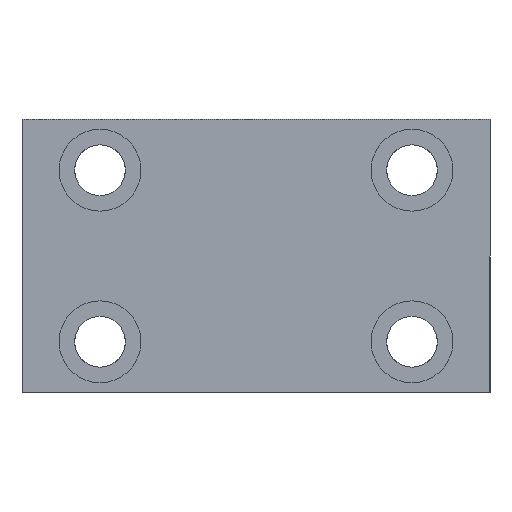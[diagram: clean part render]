
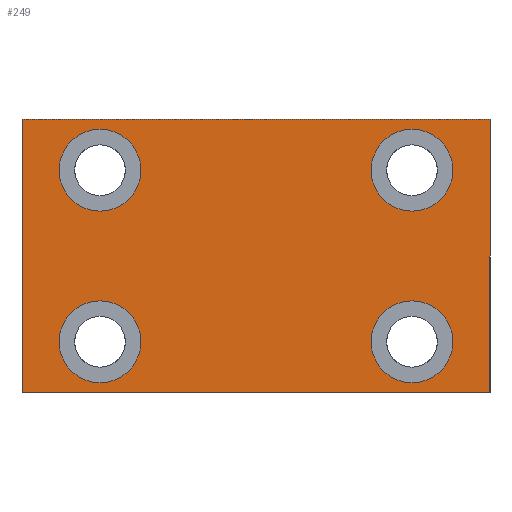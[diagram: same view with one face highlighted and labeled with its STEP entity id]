
A CAD part, front view. The second image highlights one B-rep face of the part: STEP entity #249.
In plain terms, the highlighted planar face has unit normal (0, -1, 0).
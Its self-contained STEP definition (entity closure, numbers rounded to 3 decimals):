
#4 = VERTEX_POINT ( 'NONE', #2192 ) ;
#71 = CARTESIAN_POINT ( 'NONE',  ( 0., 0., 0. ) ) ;
#80 = EDGE_CURVE ( 'NONE', #3009, #1464, #1374, .T. ) ;
#84 = PLANE ( 'NONE',  #2084 ) ;
#98 = DIRECTION ( 'NONE',  ( 0., 1., 0. ) ) ;
#104 = DIRECTION ( 'NONE',  ( 0., 0., 1. ) ) ;
#117 = AXIS2_PLACEMENT_3D ( 'NONE', #415, #180, #343 ) ;
#166 = ORIENTED_EDGE ( 'NONE', *, *, #1489, .F. ) ;
#180 = DIRECTION ( 'NONE',  ( 0., -1., 0. ) ) ;
#228 = AXIS2_PLACEMENT_3D ( 'NONE', #1771, #3333, #1488 ) ;
#249 = ADVANCED_FACE ( 'NONE', ( #256, #3017, #1718, #1632, #880 ), #84, .F. ) ;
#256 = FACE_BOUND ( 'NONE', #3218, .T. ) ;
#261 = CARTESIAN_POINT ( 'NONE',  ( -20., 0., -16.25 ) ) ;
#307 = CIRCLE ( 'NONE', #2537, 5.25 ) ;
#317 = CARTESIAN_POINT ( 'NONE',  ( 20., 0., 16.25 ) ) ;
#343 = DIRECTION ( 'NONE',  ( 0., 0., -1. ) ) ;
#378 = LINE ( 'NONE', #2876, #3139 ) ;
#412 = DIRECTION ( 'NONE',  ( 0., -1., 0. ) ) ;
#415 = CARTESIAN_POINT ( 'NONE',  ( -20., 0., 11. ) ) ;
#445 = ORIENTED_EDGE ( 'NONE', *, *, #961, .F. ) ;
#481 = DIRECTION ( 'NONE',  ( -1., 0., 0. ) ) ;
#633 = VECTOR ( 'NONE', #2417, 1000. ) ;
#754 = AXIS2_PLACEMENT_3D ( 'NONE', #1120, #412, #2717 ) ;
#824 = LINE ( 'NONE', #2494, #2106 ) ;
#858 = DIRECTION ( 'NONE',  ( 0., -1., 0. ) ) ;
#880 = FACE_OUTER_BOUND ( 'NONE', #899, .T. ) ;
#898 = CIRCLE ( 'NONE', #754, 5.25 ) ;
#899 = EDGE_LOOP ( 'NONE', ( #445, #1191, #1759, #1595 ) ) ;
#918 = DIRECTION ( 'NONE',  ( 0., -1., 0. ) ) ;
#927 = DIRECTION ( 'NONE',  ( 0., -1., 0. ) ) ;
#928 = ORIENTED_EDGE ( 'NONE', *, *, #2534, .F. ) ;
#959 = VECTOR ( 'NONE', #481, 1000. ) ;
#961 = EDGE_CURVE ( 'NONE', #2771, #1119, #378, .T. ) ;
#987 = ORIENTED_EDGE ( 'NONE', *, *, #3011, .F. ) ;
#994 = CIRCLE ( 'NONE', #117, 5.25 ) ;
#999 = CIRCLE ( 'NONE', #3006, 5.25 ) ;
#1057 = ORIENTED_EDGE ( 'NONE', *, *, #2580, .F. ) ;
#1095 = CARTESIAN_POINT ( 'NONE',  ( -30., 0., -17.5 ) ) ;
#1119 = VERTEX_POINT ( 'NONE', #1401 ) ;
#1120 = CARTESIAN_POINT ( 'NONE',  ( 20., 0., -11. ) ) ;
#1128 = CIRCLE ( 'NONE', #2432, 5.25 ) ;
#1191 = ORIENTED_EDGE ( 'NONE', *, *, #1566, .F. ) ;
#1295 = CARTESIAN_POINT ( 'NONE',  ( 20., 0., -11. ) ) ;
#1307 = DIRECTION ( 'NONE',  ( 0., 0., -1. ) ) ;
#1374 = LINE ( 'NONE', #1095, #633 ) ;
#1380 = VERTEX_POINT ( 'NONE', #2108 ) ;
#1401 = CARTESIAN_POINT ( 'NONE',  ( 30., 0., -17.5 ) ) ;
#1403 = EDGE_CURVE ( 'NONE', #1422, #1652, #2746, .T. ) ;
#1422 = VERTEX_POINT ( 'NONE', #2197 ) ;
#1464 = VERTEX_POINT ( 'NONE', #2267 ) ;
#1488 = DIRECTION ( 'NONE',  ( 0., 0., -1. ) ) ;
#1489 = EDGE_CURVE ( 'NONE', #1380, #2506, #999, .T. ) ;
#1514 = CARTESIAN_POINT ( 'NONE',  ( -30., 0., -17.5 ) ) ;
#1566 = EDGE_CURVE ( 'NONE', #1464, #2771, #824, .T. ) ;
#1595 = ORIENTED_EDGE ( 'NONE', *, *, #3233, .F. ) ;
#1632 = FACE_BOUND ( 'NONE', #3277, .T. ) ;
#1652 = VERTEX_POINT ( 'NONE', #2983 ) ;
#1703 = CIRCLE ( 'NONE', #228, 5.25 ) ;
#1718 = FACE_BOUND ( 'NONE', #3106, .T. ) ;
#1736 = VERTEX_POINT ( 'NONE', #2309 ) ;
#1759 = ORIENTED_EDGE ( 'NONE', *, *, #80, .F. ) ;
#1765 = DIRECTION ( 'NONE',  ( 0., 0., -1. ) ) ;
#1766 = CIRCLE ( 'NONE', #2598, 5.25 ) ;
#1771 = CARTESIAN_POINT ( 'NONE',  ( -20., 0., -11. ) ) ;
#1790 = ORIENTED_EDGE ( 'NONE', *, *, #1947, .F. ) ;
#1947 = EDGE_CURVE ( 'NONE', #1652, #1422, #994, .T. ) ;
#2000 = CARTESIAN_POINT ( 'NONE',  ( 20., 0., 11. ) ) ;
#2019 = EDGE_LOOP ( 'NONE', ( #2172, #1057 ) ) ;
#2084 = AXIS2_PLACEMENT_3D ( 'NONE', #71, #98, #104 ) ;
#2090 = CARTESIAN_POINT ( 'NONE',  ( -30., 0., -17.5 ) ) ;
#2106 = VECTOR ( 'NONE', #2510, 1000. ) ;
#2108 = CARTESIAN_POINT ( 'NONE',  ( -20., 0., -5.75 ) ) ;
#2172 = ORIENTED_EDGE ( 'NONE', *, *, #2878, .F. ) ;
#2192 = CARTESIAN_POINT ( 'NONE',  ( 20., 0., -5.75 ) ) ;
#2196 = ORIENTED_EDGE ( 'NONE', *, *, #1403, .F. ) ;
#2197 = CARTESIAN_POINT ( 'NONE',  ( -20., 0., 16.25 ) ) ;
#2199 = CARTESIAN_POINT ( 'NONE',  ( -20., 0., 11. ) ) ;
#2212 = DIRECTION ( 'NONE',  ( 0., -1., 0. ) ) ;
#2214 = DIRECTION ( 'NONE',  ( 0., 0., -1. ) ) ;
#2267 = CARTESIAN_POINT ( 'NONE',  ( -30., 0., 17.5 ) ) ;
#2301 = LINE ( 'NONE', #2090, #959 ) ;
#2309 = CARTESIAN_POINT ( 'NONE',  ( 20., 0., 5.75 ) ) ;
#2316 = CARTESIAN_POINT ( 'NONE',  ( -20., 0., -11. ) ) ;
#2319 = ORIENTED_EDGE ( 'NONE', *, *, #2594, .F. ) ;
#2327 = DIRECTION ( 'NONE',  ( 0., -1., 0. ) ) ;
#2343 = DIRECTION ( 'NONE',  ( 0., 0., -1. ) ) ;
#2417 = DIRECTION ( 'NONE',  ( 0., 0., 1. ) ) ;
#2432 = AXIS2_PLACEMENT_3D ( 'NONE', #2000, #918, #3044 ) ;
#2494 = CARTESIAN_POINT ( 'NONE',  ( -30., 0., 17.5 ) ) ;
#2506 = VERTEX_POINT ( 'NONE', #261 ) ;
#2510 = DIRECTION ( 'NONE',  ( 1., 0., 0. ) ) ;
#2534 = EDGE_CURVE ( 'NONE', #2563, #1736, #1766, .T. ) ;
#2537 = AXIS2_PLACEMENT_3D ( 'NONE', #1295, #858, #2796 ) ;
#2563 = VERTEX_POINT ( 'NONE', #317 ) ;
#2580 = EDGE_CURVE ( 'NONE', #4, #3247, #307, .T. ) ;
#2594 = EDGE_CURVE ( 'NONE', #1736, #2563, #1128, .T. ) ;
#2598 = AXIS2_PLACEMENT_3D ( 'NONE', #3137, #927, #1765 ) ;
#2717 = DIRECTION ( 'NONE',  ( 0., 0., -1. ) ) ;
#2746 = CIRCLE ( 'NONE', #3239, 5.25 ) ;
#2753 = CARTESIAN_POINT ( 'NONE',  ( 30., 0., 17.5 ) ) ;
#2771 = VERTEX_POINT ( 'NONE', #2753 ) ;
#2796 = DIRECTION ( 'NONE',  ( 0., 0., -1. ) ) ;
#2876 = CARTESIAN_POINT ( 'NONE',  ( 30., 0., -17.5 ) ) ;
#2878 = EDGE_CURVE ( 'NONE', #3247, #4, #898, .T. ) ;
#2983 = CARTESIAN_POINT ( 'NONE',  ( -20., 0., 5.75 ) ) ;
#3006 = AXIS2_PLACEMENT_3D ( 'NONE', #2316, #2327, #2343 ) ;
#3009 = VERTEX_POINT ( 'NONE', #1514 ) ;
#3011 = EDGE_CURVE ( 'NONE', #2506, #1380, #1703, .T. ) ;
#3017 = FACE_BOUND ( 'NONE', #2019, .T. ) ;
#3044 = DIRECTION ( 'NONE',  ( 0., 0., -1. ) ) ;
#3106 = EDGE_LOOP ( 'NONE', ( #2319, #928 ) ) ;
#3137 = CARTESIAN_POINT ( 'NONE',  ( 20., 0., 11. ) ) ;
#3139 = VECTOR ( 'NONE', #1307, 1000. ) ;
#3218 = EDGE_LOOP ( 'NONE', ( #987, #166 ) ) ;
#3233 = EDGE_CURVE ( 'NONE', #1119, #3009, #2301, .T. ) ;
#3239 = AXIS2_PLACEMENT_3D ( 'NONE', #2199, #2212, #2214 ) ;
#3247 = VERTEX_POINT ( 'NONE', #3389 ) ;
#3277 = EDGE_LOOP ( 'NONE', ( #1790, #2196 ) ) ;
#3333 = DIRECTION ( 'NONE',  ( 0., -1., 0. ) ) ;
#3389 = CARTESIAN_POINT ( 'NONE',  ( 20., 0., -16.25 ) ) ;
